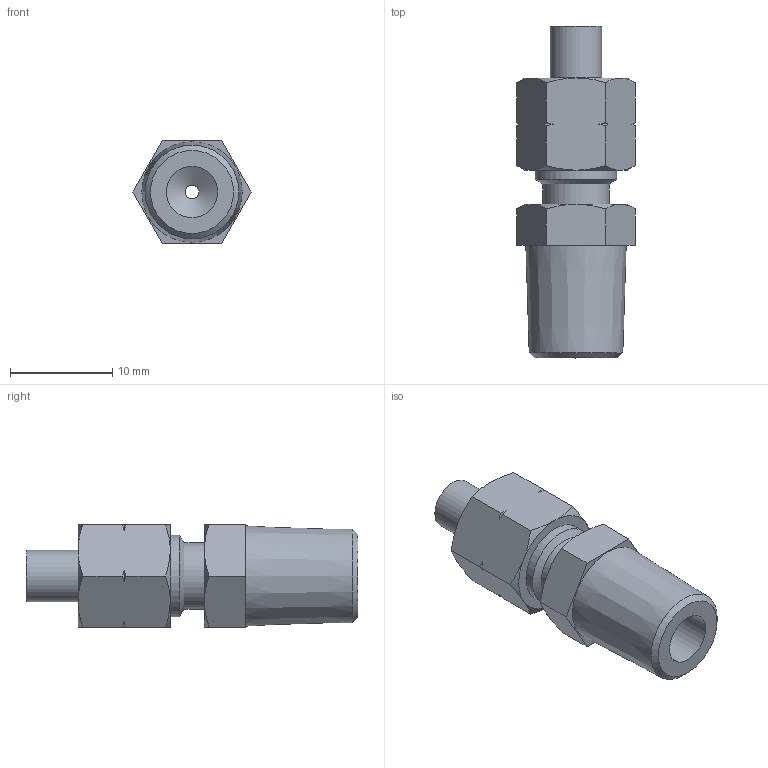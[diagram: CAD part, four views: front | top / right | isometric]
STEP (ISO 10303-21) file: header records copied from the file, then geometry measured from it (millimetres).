
FILE_DESCRIPTION((''),'2;1');
FILE_NAME('D:\INVENTOR\[New Inventor]\CDC Products 3D Ass''y\Two-Touch Fittings\Metric\CC\CC4-2.5--01.stp','2009-02-25T17:28:40',('Microsoft'),(''),'Autodesk Inventor 2008','Autodesk Inventor 2008','');
FILE_SCHEMA(('AUTOMOTIVE_DESIGN { 1 0 10303 214 1 1 1 1 }'));
Length unit declared in the file: millimetre
Products named in the file (1): CC4-2
Bounding box: 11.55 x 32.42 x 10 mm (x, y, z)
Volume: 1674.1 mm3; surface area: 1674.4 mm2
Topology: 1 solids, 1 shells, 62 faces, 138 edges, 84 vertices
Faces by surface type: cone 33, plane 20, cylinder 6, bspline 2, torus 1
Full cylindrical faces by diameter (mm): 1.3 x1, 2.3 x1, 4.2 x1, 5 x1, 6.5 x1, 8 x1
Entity records: 1628 total; most frequent: CARTESIAN_POINT 427, ORIENTED_EDGE 252, DIRECTION 230, EDGE_CURVE 126, AXIS2_PLACEMENT_3D 103, VERTEX_POINT 84, EDGE_LOOP 82, FACE_OUTER_BOUND 62
